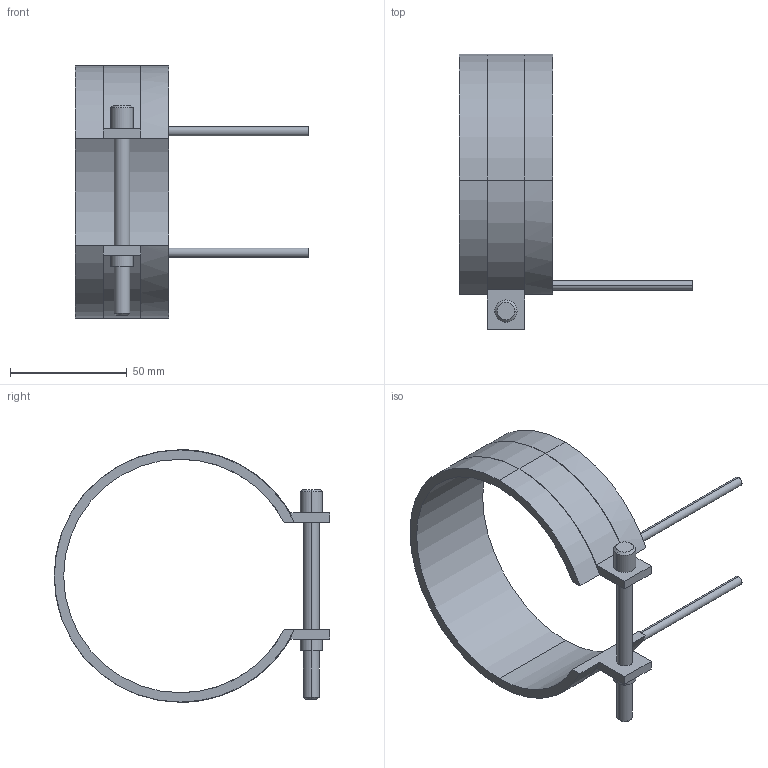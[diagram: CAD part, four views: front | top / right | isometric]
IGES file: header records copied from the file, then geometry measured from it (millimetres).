
Start section: START RECORD GO HERE.
Global section: file name: 14100040.igs; native system: DASSAULT SYSTEMES CATIA V5 R20 - www.3ds.com; preprocessor: CATIA Version 5 Release 20 ; author: Utente; organization: NB04-ASUS; date: 20210403.105420; units: millimetre
Bounding box: 100 x 118.1 x 108.2 mm (x, y, z)
Surface area: 29513.8 mm2 (no closed solid volume)
Topology: 0 solids, 0 shells, 45 faces, 232 edges, 232 vertices
Faces by surface type: revolution 28, plane 17
